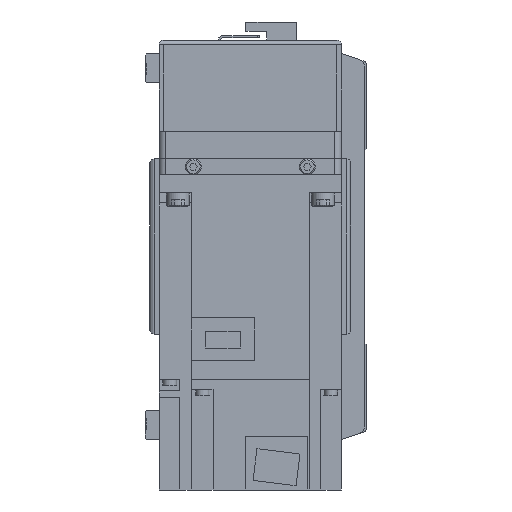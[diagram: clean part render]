
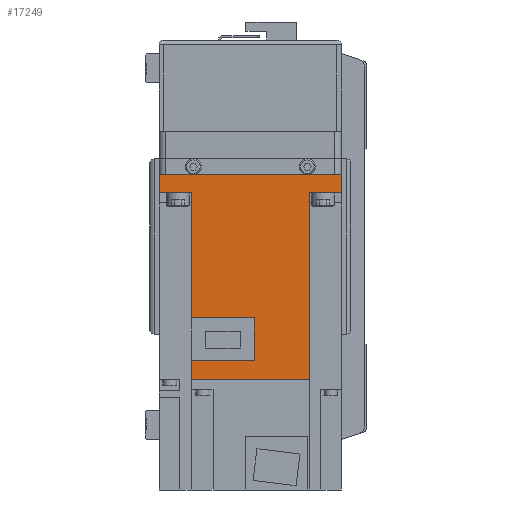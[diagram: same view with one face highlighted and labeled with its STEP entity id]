
A CAD part, left-side view. The second image highlights one B-rep face of the part: STEP entity #17249.
In plain terms, the highlighted planar face has unit normal (-1, 0, 0) as drawn and (1, 0, 0) by its records, which use the part's own axes.
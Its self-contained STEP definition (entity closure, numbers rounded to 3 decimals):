
#1897=ORIENTED_EDGE('',*,*,#6645,.F.);
#1898=ORIENTED_EDGE('',*,*,#6646,.F.);
#1899=ORIENTED_EDGE('',*,*,#6647,.F.);
#1900=ORIENTED_EDGE('',*,*,#6648,.T.);
#1901=ORIENTED_EDGE('',*,*,#6649,.F.);
#1902=ORIENTED_EDGE('',*,*,#6650,.T.);
#1903=ORIENTED_EDGE('',*,*,#6651,.T.);
#1904=ORIENTED_EDGE('',*,*,#6652,.F.);
#1905=ORIENTED_EDGE('',*,*,#6653,.F.);
#1906=ORIENTED_EDGE('',*,*,#6654,.F.);
#1907=ORIENTED_EDGE('',*,*,#6655,.F.);
#1908=ORIENTED_EDGE('',*,*,#6656,.F.);
#6645=EDGE_CURVE('',#9079,#9080,#10789,.T.);
#6646=EDGE_CURVE('',#9081,#9079,#10790,.T.);
#6647=EDGE_CURVE('',#9082,#9081,#10791,.T.);
#6648=EDGE_CURVE('',#9082,#9083,#10792,.T.);
#6649=EDGE_CURVE('',#9084,#9083,#10793,.T.);
#6650=EDGE_CURVE('',#9084,#9085,#10794,.T.);
#6651=EDGE_CURVE('',#9085,#9086,#10795,.T.);
#6652=EDGE_CURVE('',#9087,#9086,#10796,.T.);
#6653=EDGE_CURVE('',#9088,#9087,#10797,.T.);
#6654=EDGE_CURVE('',#9089,#9088,#10798,.T.);
#6655=EDGE_CURVE('',#9090,#9089,#10799,.T.);
#6656=EDGE_CURVE('',#9080,#9090,#10800,.T.);
#9079=VERTEX_POINT('',#25982);
#9080=VERTEX_POINT('',#25983);
#9081=VERTEX_POINT('',#25985);
#9082=VERTEX_POINT('',#25987);
#9083=VERTEX_POINT('',#25989);
#9084=VERTEX_POINT('',#25991);
#9085=VERTEX_POINT('',#25993);
#9086=VERTEX_POINT('',#25995);
#9087=VERTEX_POINT('',#25997);
#9088=VERTEX_POINT('',#25999);
#9089=VERTEX_POINT('',#26001);
#9090=VERTEX_POINT('',#26003);
#10789=LINE('',#25981,#12415);
#10790=LINE('',#25984,#12416);
#10791=LINE('',#25986,#12417);
#10792=LINE('',#25988,#12418);
#10793=LINE('',#25990,#12419);
#10794=LINE('',#25992,#12420);
#10795=LINE('',#25994,#12421);
#10796=LINE('',#25996,#12422);
#10797=LINE('',#25998,#12423);
#10798=LINE('',#26000,#12424);
#10799=LINE('',#26002,#12425);
#10800=LINE('',#26004,#12426);
#12415=VECTOR('',#20709,1000.);
#12416=VECTOR('',#20710,1000.);
#12417=VECTOR('',#20711,1000.);
#12418=VECTOR('',#20712,1000.);
#12419=VECTOR('',#20713,1000.);
#12420=VECTOR('',#20714,1000.);
#12421=VECTOR('',#20715,1000.);
#12422=VECTOR('',#20716,1000.);
#12423=VECTOR('',#20717,1000.);
#12424=VECTOR('',#20718,1000.);
#12425=VECTOR('',#20719,1000.);
#12426=VECTOR('',#20720,1000.);
#14033=EDGE_LOOP('',(#1897,#1898,#1899,#1900,#1901,#1902,#1903,#1904,#1905,
#1906,#1907,#1908));
#15345=FACE_BOUND('',#14033,.T.);
#16550=PLANE('',#18447);
#17249=ADVANCED_FACE('',(#15345),#16550,.F.);
#18447=AXIS2_PLACEMENT_3D('',#25980,#20707,#20708);
#20707=DIRECTION('',(-1.,0.,0.));
#20708=DIRECTION('',(0.,0.,1.));
#20709=DIRECTION('',(0.,0.,1.));
#20710=DIRECTION('',(0.,-1.,0.));
#20711=DIRECTION('',(0.,0.,-1.));
#20712=DIRECTION('',(0.,-1.,0.));
#20713=DIRECTION('',(0.,0.,-1.));
#20714=DIRECTION('',(0.,-1.,0.));
#20715=DIRECTION('',(0.,0.,-1.));
#20716=DIRECTION('',(0.,-1.,0.));
#20717=DIRECTION('',(0.,0.,-1.));
#20718=DIRECTION('',(0.,-1.,0.));
#20719=DIRECTION('',(0.,0.,-1.));
#20720=DIRECTION('',(0.,-1.,0.));
#25980=CARTESIAN_POINT('',(40.,89.8,40.));
#25981=CARTESIAN_POINT('',(40.,81.4,-26.));
#25982=CARTESIAN_POINT('',(40.,81.4,-25.95));
#25983=CARTESIAN_POINT('',(40.,81.4,1.8));
#25984=CARTESIAN_POINT('',(40.,158.,-25.95));
#25985=CARTESIAN_POINT('',(40.,89.8,-25.95));
#25986=CARTESIAN_POINT('',(40.,89.8,40.));
#25987=CARTESIAN_POINT('',(40.,89.8,25.95));
#25988=CARTESIAN_POINT('',(40.,158.,25.95));
#25989=CARTESIAN_POINT('',(40.,8.,25.95));
#25990=CARTESIAN_POINT('',(40.,8.,40.));
#25991=CARTESIAN_POINT('',(40.,8.,40.));
#25992=CARTESIAN_POINT('',(40.,89.8,40.));
#25993=CARTESIAN_POINT('',(40.,0.,40.));
#25994=CARTESIAN_POINT('',(40.,0.,40.));
#25995=CARTESIAN_POINT('',(40.,0.,-40.));
#25996=CARTESIAN_POINT('',(40.,89.8,-40.));
#25997=CARTESIAN_POINT('',(40.,8.,-40.));
#25998=CARTESIAN_POINT('',(40.,8.,40.));
#25999=CARTESIAN_POINT('',(40.,8.,-25.95));
#26000=CARTESIAN_POINT('',(40.,158.,-25.95));
#26001=CARTESIAN_POINT('',(40.,62.8,-25.95));
#26002=CARTESIAN_POINT('',(40.,62.8,1.8));
#26003=CARTESIAN_POINT('',(40.,62.8,1.8));
#26004=CARTESIAN_POINT('',(40.,81.4,1.8));
